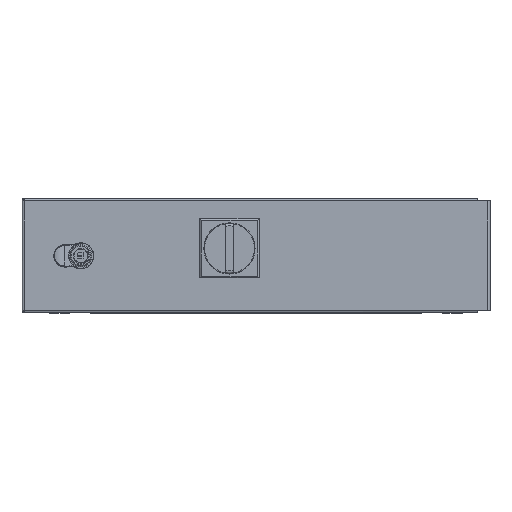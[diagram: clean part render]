
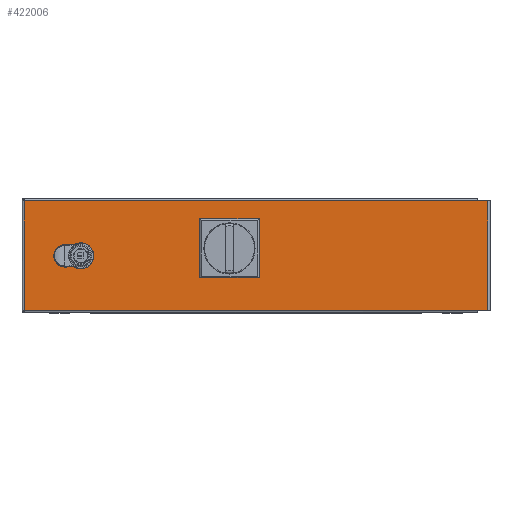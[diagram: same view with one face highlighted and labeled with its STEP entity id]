
A CAD part, top view. The second image highlights one B-rep face of the part: STEP entity #422006.
In plain terms, the highlighted planar face has unit normal (0, 0, 1).
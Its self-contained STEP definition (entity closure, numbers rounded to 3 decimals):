
#419171=CARTESIAN_POINT(' ',(234.752,95.212,104.253));
#419172=VERTEX_POINT(' ',#419171);
#420901=CARTESIAN_POINT(' ',(234.752,95.212,104.253));
#420906=DIRECTION(' ',(-1.,0.,0.));
#420911=VECTOR(' ',#420906,1.);
#420916=LINE('',#420901,#420911);
#420921=CARTESIAN_POINT(' ',(-340.448,95.212,104.253));
#420922=VERTEX_POINT(' ',#420921);
#420926=EDGE_CURVE(' ',#419172,#420922,#420916,.T.);
#421226=CARTESIAN_POINT(' ',(247.952,95.212,104.253));
#421231=DIRECTION(' ',(-1.,0.,0.));
#421236=VECTOR(' ',#421231,1.);
#421241=LINE('',#421226,#421236);
#421246=CARTESIAN_POINT(' ',(247.952,95.212,104.253));
#421247=VERTEX_POINT(' ',#421246);
#421251=EDGE_CURVE(' ',#421247,#419172,#421241,.T.);
#421826=DIRECTION(' ',(-0.,-0.,1.));
#421831=CARTESIAN_POINT(' ',(247.952,-44.188,104.253));
#421836=DIRECTION(' ',(0.,1.,0.));
#421841=AXIS2_PLACEMENT_3D(' ',#421831,#421826,#421836);
#421846=PLANE('NONE',#421841);
#421851=CARTESIAN_POINT(' ',(-340.448,-44.188,104.253));
#421856=DIRECTION(' ',(1.,0.,0.));
#421861=VECTOR(' ',#421856,1.);
#421866=LINE('',#421851,#421861);
#421871=CARTESIAN_POINT(' ',(-340.448,-44.188,104.253));
#421872=VERTEX_POINT(' ',#421871);
#421876=CARTESIAN_POINT(' ',(234.752,-44.188,104.253));
#421877=VERTEX_POINT(' ',#421876);
#421881=EDGE_CURVE(' ',#421872,#421877,#421866,.T.);
#421886=ORIENTED_EDGE(' ',*,*,#421881,.T.);
#421891=CARTESIAN_POINT(' ',(234.752,-44.188,104.253));
#421896=DIRECTION(' ',(1.,0.,0.));
#421901=VECTOR(' ',#421896,1.);
#421906=LINE('',#421891,#421901);
#421911=CARTESIAN_POINT(' ',(247.952,-44.188,104.253));
#421912=VERTEX_POINT(' ',#421911);
#421916=EDGE_CURVE(' ',#421877,#421912,#421906,.T.);
#421921=ORIENTED_EDGE(' ',*,*,#421916,.T.);
#421926=CARTESIAN_POINT(' ',(247.952,95.212,104.253));
#421931=DIRECTION(' ',(0.,-1.,0.));
#421936=VECTOR(' ',#421931,1.);
#421941=LINE('',#421926,#421936);
#421946=EDGE_CURVE(' ',#421247,#421912,#421941,.T.);
#421951=ORIENTED_EDGE(' ',*,*,#421946,.F.);
#421956=ORIENTED_EDGE(' ',*,*,#421251,.T.);
#421961=ORIENTED_EDGE(' ',*,*,#420926,.T.);
#421966=CARTESIAN_POINT(' ',(-340.448,95.212,104.253));
#421971=DIRECTION(' ',(0.,-1.,0.));
#421976=VECTOR(' ',#421971,1.);
#421981=LINE('',#421966,#421976);
#421986=EDGE_CURVE(' ',#420922,#421872,#421981,.T.);
#421991=ORIENTED_EDGE(' ',*,*,#421986,.T.);
#421996=EDGE_LOOP(' ',(#421886,#421921,#421951,#421956,#421961,#421991));
#422001=FACE_OUTER_BOUND(' ',#421996,.T.);
#422006=ADVANCED_FACE('NONE',(#422001),#421846,.T.);
